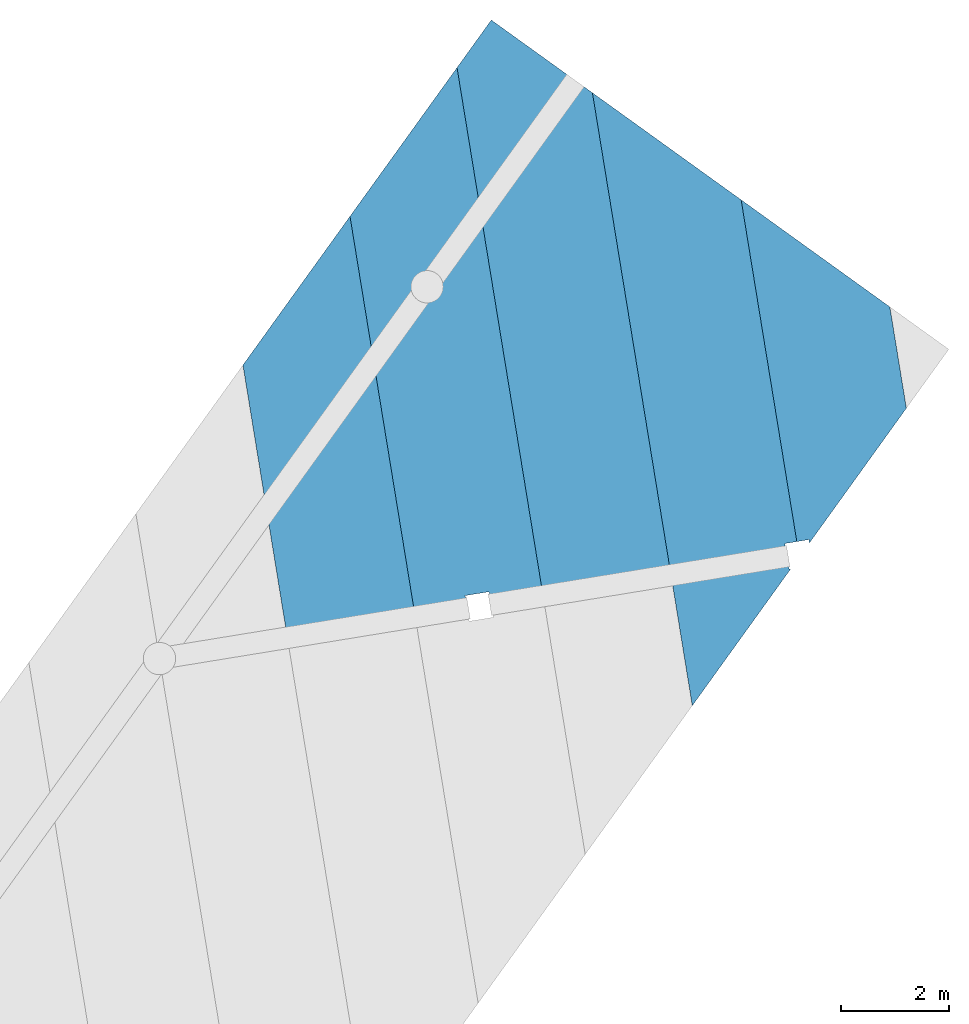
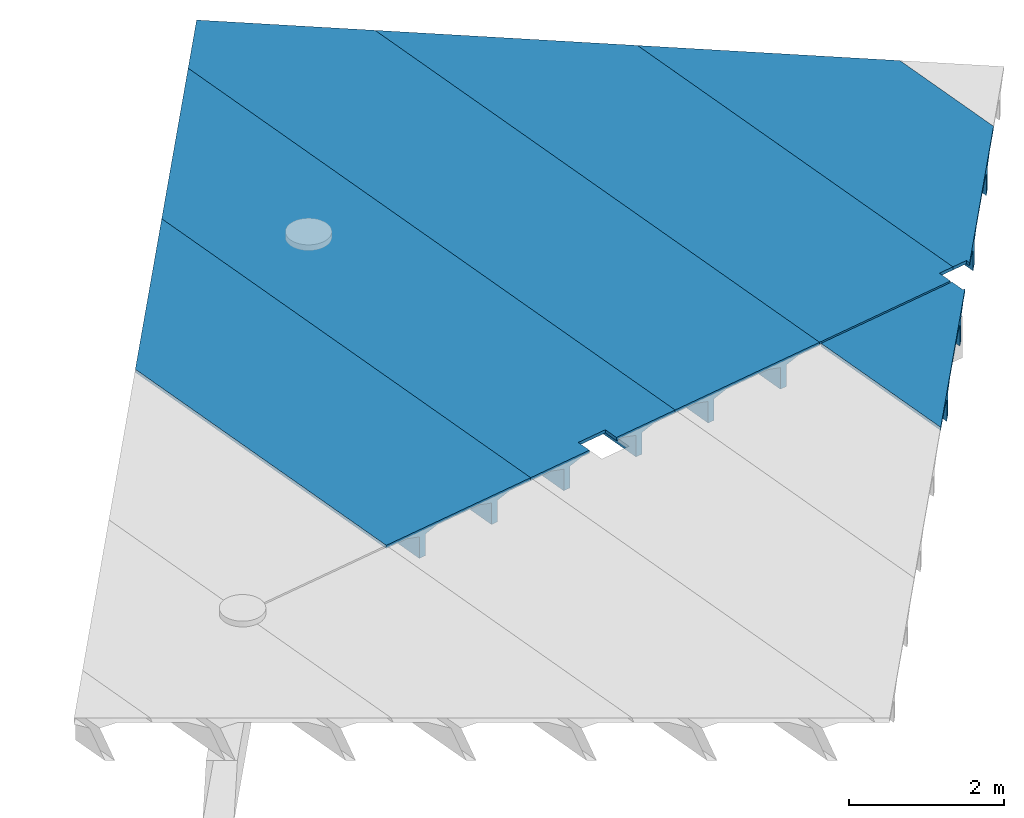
# One storey, part 3 of 3: 6 beams.
"""IFC2X3 building model written with IfcOpenShell, lengths in millimetres."""

from ifc_helpers import new_model, entity, si_unit, converted_unit, derived_unit, direction, frame, origin, origin_with_axes, place, context, subcontext, project, spatial, faceted_brep, type_object, element, save


model = new_model("IFC2X3")

# Units and contexts
model_context = context("Model", 3, precision=0.01, world=origin(), true_north=direction((6.12323399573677e-17, 1.0)))
plan_context = context("Plan", 3, precision=1e-05, world=origin_with_axes())
body_context = subcontext(model_context, "Body", "Model", "MODEL_VIEW")
ifc_project = project(units=[converted_unit("PLANEANGLEUNIT", "DEGREE", entity("IfcPositiveLengthMeasure", 0.0174532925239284), si_unit("PLANEANGLEUNIT", "RADIAN"), dimensions=[0, 0, 0, 0, 0, 0, 0]), si_unit("AREAUNIT", "SQUARE_METRE"), si_unit("LENGTHUNIT", "METRE", prefix="MILLI"), si_unit("MASSUNIT", "GRAM", prefix="KILO"), si_unit("POWERUNIT", "WATT"), si_unit("PRESSUREUNIT", "PASCAL", prefix="KILO"), si_unit("FORCEUNIT", "NEWTON", prefix="KILO"), si_unit("ELECTRICVOLTAGEUNIT", "VOLT"), si_unit("ELECTRICCURRENTUNIT", "AMPERE"), si_unit("THERMODYNAMICTEMPERATUREUNIT", "DEGREE_CELSIUS"), si_unit("TIMEUNIT", "SECOND"), si_unit("VOLUMEUNIT", "CUBIC_METRE"), derived_unit("LINEARVELOCITYUNIT", [(si_unit("LENGTHUNIT", "METRE"), 1), (si_unit("TIMEUNIT", "SECOND"), -1)]), derived_unit("VOLUMETRICFLOWRATEUNIT", [(si_unit("VOLUMEUNIT", "CUBIC_METRE"), 1), (si_unit("TIMEUNIT", "SECOND"), -1)]), derived_unit("THERMALTRANSMITTANCEUNIT", [(si_unit("POWERUNIT", "WATT"), 1), (si_unit("THERMODYNAMICTEMPERATUREUNIT", "KELVIN"), -1), (si_unit("AREAUNIT", "SQUARE_METRE"), -1)]), derived_unit("SOUNDPRESSUREUNIT", [(si_unit("PRESSUREUNIT", "PASCAL"), 1)])], contexts=[model_context, plan_context])

# Site, building, storey
site_placement = place(None, frame((5.09380697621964e-08, 5.80416781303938e-08, 0.0), z_axis=(0.0, 0.0, 1.0), x_axis=(-0.160806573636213, 0.986985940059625, 0.0)))
site = spatial("IfcSite", under=ifc_project, at=site_placement, Name="Default", CompositionType="ELEMENT")
building_placement = place(site_placement, frame((0.0, 0.0, 0.0), z_axis=(0.0, 0.0, 1.0), x_axis=(1.0, -2.77555756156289e-17, 0.0)))
building = spatial("IfcBuilding", under=site, at=building_placement, CompositionType="ELEMENT")
storey_placement = place(building_placement, frame((0.0, 0.0, 51360.0000000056), z_axis=(0.0, 0.0, 1.0), x_axis=(1.0, -2.77555756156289e-17, 0.0)))
storey = spatial("IfcBuildingStorey", under=building, at=storey_placement, Name="H01-Nivå D+0,36", CompositionType="ELEMENT", Elevation=51360.0000000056)

# Beams
beam_type = type_object("IfcBeamType", Name="DT450*2400-100-50-1200-0-200-0.3", PredefinedType="NOTDEFINED")
beam_1_placement = place(storey_placement, frame((1004653.37530632, -351980.275321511, 3529.99999999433), z_axis=(0.0, 0.0, 1.0), x_axis=(1.0, -2.77555756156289e-17, 0.0)))
element("IfcBeam", 1, at=beam_1_placement, inside=storey, type_object=beam_type, Name="DT", ObjectType="DT450*2400-100-50-1200-0-200-0.3", context=body_context, shape_type="Brep", body=[
    faceted_brep([(9039.0562173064, 0.0465330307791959, 450.0), (9039.0562173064, 0.0465330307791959, 400.0), (0.0123552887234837, 0.0, 400.0), (0.0123552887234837, 0.0, 450.0), (9389.03976443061, 350.048334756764, 400.0), (0.0105534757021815, 350.0, 400.0), (9589.04079404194, 550.049364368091, 340.0), (0.00952386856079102, 550.0, 340.0), (9589.05338590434, 550.049364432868, 0.0), (0.00952386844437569, 550.0, 0.0), (9689.04130884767, 650.049879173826, 0.0), (0.00900906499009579, 650.0, 0.0), (9689.05287110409, 650.049879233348, 340.0), (0.00900906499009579, 650.0, 340.0), (9889.04233845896, 850.050908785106, 400.0), (0.00797945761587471, 850.0, 400.0), (10589.0459420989, 1550.05451242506, 400.0), (0.00437583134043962, 1550.0, 400.0), (10670.6573184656, 1631.66588879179, 375.516713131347), (10552.2688841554, 1750.05432310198, 340.0), (0.00334622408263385, 1750.0, 340.0), (10552.2674286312, 1750.05432309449, 0.0), (0.00334622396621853, 1750.0, 0.0), (10452.2693989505, 1850.05380830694, 0.0), (0.00283142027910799, 1850.0, 0.0), (10452.2679434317, 1850.05380829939, 340.0), (0.00283142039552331, 1850.0, 340.0), (10252.2704285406, 2050.05277871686, 400.0), (0.0018018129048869, 2050.0, 400.0), (9902.27223032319, 2400.05097693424, 400.0), (0.0, 2400.0, 400.0), (9902.2707748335, 2400.05097692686, 450.0), (0.0, 2400.0, 450.0), (10670.6573184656, 1631.66588879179, 450.0), (9689.04130884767, 650.049879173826, 340.0), (9589.0407940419, 550.049364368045, 0.0), (9039.03796261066, 0.0465329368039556, 400.0), (9039.03796261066, 0.0465329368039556, 450.0), (9902.27223032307, 2400.05097693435, 450.0), (10452.2693989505, 1850.05380830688, 340.0), (10552.2688841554, 1750.05432310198, 0.0)], [[[0, 1, 2, 3]], [[1, 4, 5, 2]], [[4, 6, 7, 5]], [[6, 8, 9, 7]], [[8, 10, 11, 9]], [[10, 12, 13, 11]], [[12, 14, 15, 13]], [[14, 16, 17, 15]], [[16, 18, 19, 20, 17]], [[19, 21, 22, 20]], [[21, 23, 24, 22]], [[23, 25, 26, 24]], [[25, 27, 28, 26]], [[27, 29, 30, 28]], [[29, 31, 32, 30]], [[31, 33, 0, 3, 32]], [[2, 5, 7, 9, 11, 13, 15, 17, 20, 22, 24, 26, 28, 30, 32, 3]], [[18, 16, 14, 34, 10, 35, 6, 4, 36, 37, 33]], [[33, 38, 29, 27, 39, 23, 40, 19, 18]]], orient=[[False], [False], [False], [False], [False], [False], [False], [False], [False], [False], [False], [False], [False], [False], [False], [False], [False], [False], [False]]),
])
beam_2_placement = place(storey_placement, frame((1004653.38591223, -354380.274163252, 3529.99999999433), z_axis=(0.0, 0.0, 1.0), x_axis=(1.0, -2.77555756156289e-17, 0.0)))
element("IfcBeam", 2, at=beam_2_placement, inside=storey, type_object=beam_type, Name="DT", ObjectType="DT450*2400-100-50-1200-0-200-0.3", context=body_context, shape_type="Brep", body=[
    faceted_brep([(225.011272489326, 225.000014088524, 400.0), (0.011196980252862, 224.99885579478, 400.0), (0.011196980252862, 224.99885579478, 450.0), (225.011272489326, 225.000014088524, 450.0), (225.012430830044, 0.0, 450.0), (225.012430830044, 0.0, 400.0), (6989.01738947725, 350.034821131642, 400.0), (7189.0178327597, 550.03585073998, 340.0), (0.00952386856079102, 549.998841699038, 340.0), (0.0105534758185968, 349.998841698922, 400.0), (6639.01500132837, 0.0330193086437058, 400.0), (7189.05513515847, 550.0358509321, 0.0), (0.00952386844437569, 549.998841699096, 0.0), (7289.01834756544, 650.036365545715, 0.0), (0.00900906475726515, 649.998841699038, 0.0), (7289.05462035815, 650.036365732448, 340.0), (0.00900906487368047, 649.998841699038, 340.0), (7489.01937717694, 850.037395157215, 400.0), (0.00797945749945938, 849.998841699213, 400.0), (8189.02298081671, 1550.04099879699, 400.0), (0.00437583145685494, 1549.99884169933, 400.0), (8389.02401042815, 1750.04202840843, 340.0), (0.00334622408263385, 1749.99884169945, 340.0), (8389.04895755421, 1750.04202853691, 0.0), (0.00334622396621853, 1749.9988416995, 0.0), (8489.02452523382, 1850.04254321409, 0.0), (0.00283142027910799, 1849.9988416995, 0.0), (8489.04844275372, 1850.04254333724, 340.0), (0.00283142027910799, 1849.99884169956, 340.0), (8689.02555484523, 2050.04357282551, 400.0), (0.00180181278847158, 2049.99884169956, 400.0), (9039.0273566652, 2400.04537464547, 400.0), (0.0, 2399.99884169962, 400.0), (9039.04561135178, 2400.04537473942, 450.0), (0.0, 2399.99884169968, 450.0), (6638.98198201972, 0.0330191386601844, 450.0), (6639.01500132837, 0.0330193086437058, 450.0), (9039.02735666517, 2400.04537464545, 450.0), (8489.02452523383, 1850.04254321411, 340.0), (8389.02401042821, 1750.04202840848, 0.0), (7289.01834756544, 650.036365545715, 340.0), (7189.01783275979, 550.035850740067, 0.0), (6989.01680314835, 350.034821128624, 400.0)], [[[0, 1, 2, 3]], [[0, 3, 4, 5]], [[6, 7, 8, 9]], [[10, 6, 9, 1, 0, 5]], [[7, 11, 12, 8]], [[11, 13, 14, 12]], [[13, 15, 16, 14]], [[15, 17, 18, 16]], [[17, 19, 20, 18]], [[19, 21, 22, 20]], [[21, 23, 24, 22]], [[23, 25, 26, 24]], [[25, 27, 28, 26]], [[27, 29, 30, 28]], [[29, 31, 32, 30]], [[31, 33, 34, 32]], [[35, 10, 5, 4]], [[1, 9, 8, 12, 14, 16, 18, 20, 22, 24, 26, 28, 30, 32, 34, 2]], [[33, 35, 4, 3, 2, 34]], [[10, 36, 37, 31, 29, 38, 25, 39, 21, 19, 17, 40, 13, 41, 7, 42]]], orient=[[False], [False], [False], [False], [False], [False], [False], [False], [False], [False], [False], [False], [False], [False], [False], [False], [False], [False], [False], [False]]),
])
beam_3_placement = place(storey_placement, frame((1004653.39767645, -356780.275321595, 3529.99999999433), z_axis=(0.0, 0.0, 1.0), x_axis=(1.0, -2.77555756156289e-17, 0.0)))
element("IfcBeam", 3, at=beam_3_placement, inside=storey, type_object=beam_type, Name="DT", ObjectType="DT450*2400-100-50-1200-0-200-0.3", context=body_context, shape_type="Brep", body=[
    faceted_brep([(161.086246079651, 2175.00084344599, 450.0), (161.086246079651, 2175.00084344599, 400.0), (224.999938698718, 2175.00117247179, 400.0), (224.999938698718, 2175.00117247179, 450.0), (224.998786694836, 2400.00115830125, 400.0), (224.998786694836, 2400.00115830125, 450.0), (1986.07603598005, 350.010224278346, 400.0), (2336.07575322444, 0.0120260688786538, 400.0), (4238.99217043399, 0.0218222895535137, 400.0), (4588.99268355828, 350.023624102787, 400.0), (1786.07706557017, 550.009194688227, 340.0), (4788.99371316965, 550.024653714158, 340.0), (1786.0096322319, 550.009194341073, 0.0), (4789.04568748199, 550.024653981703, 0.0), (1686.07758036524, 650.00867989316, 0.0), (4888.99422797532, 650.025168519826, 0.0), (1686.00963223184, 650.008679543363, 340.0), (4889.04568748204, 650.025168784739, 340.0), (1486.07860995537, 850.007650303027, 400.0), (5088.99525758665, 850.026198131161, 400.0), (786.082213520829, 1550.00404673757, 400.0), (5788.99886122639, 1550.0298017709, 400.0), (586.083243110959, 1750.00301714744, 340.0), (5988.9998908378, 1750.03083138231, 340.0), (586.009632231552, 1750.00301676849, 0.0), (5989.04568748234, 1750.03083161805, 0.0), (486.083757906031, 1850.00250235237, 0.0), (6089.00040564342, 1850.03134618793, 0.0), (486.009632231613, 1850.00250197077, 340.0), (6089.04568748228, 1850.03134642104, 340.0), (286.084787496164, 2050.00147276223, 400.0), (6289.00143525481, 2050.03237579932, 400.0), (6639.00323707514, 2400.03417761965, 400.0), (2336.00963223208, 0.0120257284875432, 450.0), (4239.04568748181, 0.0218225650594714, 450.0), (6638.97021775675, 2400.03417744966, 450.0), (4238.99088173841, 0.0218222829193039, 450.0), (6639.00323707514, 2400.03417761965, 450.0), (6089.00040564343, 1850.03134618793, 340.0), (5988.99989083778, 1750.03083138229, 0.0), (4888.99422797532, 650.025168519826, 340.0), (4788.99371316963, 550.024653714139, 0.0), (4238.99088173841, 0.0218222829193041, 400.0), (2336.07423419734, 0.0120260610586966, 450.0), (2336.07423419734, 0.0120260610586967, 400.0), (1786.07706557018, 550.00919468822, 0.0), (1686.07758036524, 650.00867989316, 340.0), (586.08324311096, 1750.00301714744, 0.0), (486.083757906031, 1850.00250235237, 340.0), (161.08541681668, 2175.00084344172, 400.0), (161.08541681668, 2175.00084344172, 450.0)], [[[0, 1, 2, 3]], [[2, 4, 5, 3]], [[6, 7, 8, 9]], [[10, 6, 9, 11]], [[12, 10, 11, 13]], [[14, 12, 13, 15]], [[16, 14, 15, 17]], [[18, 16, 17, 19]], [[20, 18, 19, 21]], [[22, 20, 21, 23]], [[24, 22, 23, 25]], [[26, 24, 25, 27]], [[28, 26, 27, 29]], [[30, 28, 29, 31]], [[1, 30, 31, 32, 4, 2]], [[7, 33, 34, 8]], [[32, 35, 5, 4]], [[35, 34, 33, 0, 3, 5]], [[36, 37, 32, 31, 38, 27, 39, 23, 21, 19, 40, 15, 41, 11, 9, 42]], [[43, 44, 6, 10, 45, 14, 46, 18, 20, 22, 47, 26, 48, 30, 49, 50]]], orient=[[False], [False], [False], [False], [False], [False], [False], [False], [False], [False], [False], [False], [False], [False], [False], [False], [False], [False], [False], [False]]),
])
beam_4_placement = place(storey_placement, frame((1004653.36470041, -349580.27532147, 3529.99999999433), z_axis=(0.0, 0.0, 1.0), x_axis=(1.0, -2.77555756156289e-17, 0.0)))
element("IfcBeam", 4, at=beam_4_placement, inside=storey, type_object=beam_type, Name="DT", ObjectType="DT450*2400-100-50-1200-0-200-0.3", context=body_context, shape_type="Brep", body=[
    faceted_brep([(225.005033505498, 1425.0011724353, 400.0), (0.00501933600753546, 1425.00001414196, 400.0), (0.00501933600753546, 1425.00001414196, 450.0), (225.005033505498, 1425.0011724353, 450.0), (0.00733595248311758, 975.000014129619, 400.0), (225.007350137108, 975.001172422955, 400.0), (225.007350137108, 975.001172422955, 450.0), (0.00733595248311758, 975.000014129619, 450.0), (9902.28288621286, 0.0509769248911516, 400.0), (9552.28463797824, 350.049175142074, 400.0), (0.0105534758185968, 350.0, 400.0), (0.0123552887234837, 0.0, 400.0), (9352.28566756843, 550.048145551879, 340.0), (0.00952386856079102, 550.0, 340.0), (9352.28421209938, 550.048145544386, 0.0), (0.00952386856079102, 550.0, 0.0), (9252.28618236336, 650.04763075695, 0.0), (0.00900906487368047, 650.0, 0.0), (9252.28472689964, 650.047630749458, 340.0), (0.00900906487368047, 650.0, 340.0), (9052.28721195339, 850.046601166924, 400.0), (0.00797945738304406, 850.0, 400.0), (8352.29081551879, 1550.04299760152, 400.0), (0.00437583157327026, 1550.0, 400.0), (8152.29184510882, 1750.04196801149, 340.0), (0.00334622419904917, 1750.0, 340.0), (8152.29038970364, 1750.04196800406, 0.0), (0.00334622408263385, 1750.0, 0.0), (8052.29235990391, 1850.0414532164, 0.0), (0.00283142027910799, 1850.0, 0.0), (8052.29090450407, 1850.04145320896, 340.0), (0.00283142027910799, 1850.0, 340.0), (7852.29338949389, 2050.04042362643, 400.0), (0.0018018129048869, 2050.0, 400.0), (7502.29519127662, 2400.0386218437, 400.0), (0.0, 2400.0, 400.0), (7502.29373590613, 2400.0386218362, 450.0), (0.0, 2400.0, 450.0), (9902.28138069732, 0.0509769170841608, 450.0), (0.0123552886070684, 0.0, 450.0), (9902.28283619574, 0.050976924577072, 450.0), (7502.29519127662, 2400.0386218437, 450.0), (8052.29235990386, 1850.04145321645, 340.0), (8152.29184510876, 1750.04196801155, 0.0), (9252.28618236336, 650.04763075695, 340.0), (9352.28566756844, 550.048145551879, 0.0), (9902.28283619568, 0.050976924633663, 400.0)], [[[0, 1, 2, 3]], [[4, 5, 6, 7]], [[5, 0, 3, 6]], [[8, 9, 10, 11]], [[9, 12, 13, 10]], [[12, 14, 15, 13]], [[14, 16, 17, 15]], [[16, 18, 19, 17]], [[18, 20, 21, 19]], [[20, 22, 23, 1, 0, 5, 4, 21]], [[22, 24, 25, 23]], [[24, 26, 27, 25]], [[26, 28, 29, 27]], [[28, 30, 31, 29]], [[30, 32, 33, 31]], [[32, 34, 35, 33]], [[34, 36, 37, 35]], [[38, 8, 11, 39]], [[7, 39, 11, 10, 13, 15, 17, 19, 21, 4]], [[1, 23, 25, 27, 29, 31, 33, 35, 37, 2]], [[36, 38, 39, 7, 6, 3, 2, 37]], [[40, 41, 34, 32, 42, 28, 43, 24, 22, 20, 44, 16, 45, 12, 9, 46]]], orient=[[False], [False], [False], [False], [False], [False], [False], [False], [False], [False], [False], [False], [False], [False], [False], [False], [False], [False], [False], [False], [False], [False]]),
])
beam_5_placement = place(storey_placement, frame((1004653.3540945, -347180.275321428, 3529.99999999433), z_axis=(0.0, 0.0, 1.0), x_axis=(1.0, -2.77555756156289e-17, 0.0)))
element("IfcBeam", 5, at=beam_5_placement, inside=storey, type_object=beam_type, Name="DT", ObjectType="DT450*2400-100-50-1200-0-200-0.3", context=body_context, shape_type="Brep", body=[
    faceted_brep([(7502.3043417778, 0.0386218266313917, 450.0), (7502.3043417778, 0.0386218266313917, 400.0), (0.012355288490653, 0.0, 400.0), (0.012355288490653, 0.0, 450.0), (7152.30759894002, 350.036820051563, 400.0), (0.0105534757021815, 350.0, 400.0), (6952.30862853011, 550.035790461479, 340.0), (0.00952386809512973, 550.0, 340.0), (6952.30717317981, 550.035790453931, 0.0), (0.00952386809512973, 550.0, 0.0), (6852.30914332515, 650.035275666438, 0.0), (0.00900906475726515, 650.0, 0.0), (6852.30768798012, 650.035275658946, 340.0), (0.00900906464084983, 650.0, 340.0), (6652.31017291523, 850.034246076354, 400.0), (0.00797945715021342, 850.0, 400.0), (5952.31377648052, 1550.03064251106, 400.0), (0.00437583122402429, 1550.0, 400.0), (5752.31480607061, 1750.02961292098, 340.0), (0.00334622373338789, 1750.0, 340.0), (5752.31335078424, 1750.02961291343, 0.0), (0.00334622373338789, 1750.0, 0.0), (5652.31532086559, 1850.02909812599, 0.0), (0.00283142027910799, 1850.0, 0.0), (5652.31386558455, 1850.02909811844, 340.0), (0.00283142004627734, 1850.0, 340.0), (5452.31635045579, 2050.0280685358, 400.0), (0.00180181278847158, 2050.0, 400.0), (5102.31815223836, 2400.02626675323, 400.0), (0.0, 2400.0, 400.0), (5102.31669698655, 2400.02626674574, 450.0), (0.0, 2400.0, 450.0), (5102.31815223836, 2400.02626675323, 450.0), (5652.31532086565, 1850.02909812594, 340.0), (5752.31480607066, 1750.02961292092, 0.0), (6852.30914332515, 650.035275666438, 340.0), (6952.30862853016, 550.035790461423, 0.0), (7502.30579715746, 0.0386218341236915, 400.0), (7502.30579715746, 0.0386218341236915, 450.0)], [[[0, 1, 2, 3]], [[1, 4, 5, 2]], [[4, 6, 7, 5]], [[6, 8, 9, 7]], [[8, 10, 11, 9]], [[10, 12, 13, 11]], [[12, 14, 15, 13]], [[14, 16, 17, 15]], [[16, 18, 19, 17]], [[18, 20, 21, 19]], [[20, 22, 23, 21]], [[22, 24, 25, 23]], [[24, 26, 27, 25]], [[26, 28, 29, 27]], [[28, 30, 31, 29]], [[30, 0, 3, 31]], [[2, 5, 7, 9, 11, 13, 15, 17, 19, 21, 23, 25, 27, 29, 31, 3]], [[32, 28, 26, 33, 22, 34, 18, 16, 14, 35, 10, 36, 6, 4, 37, 38]]], orient=[[False], [False], [False], [False], [False], [False], [False], [False], [False], [False], [False], [False], [False], [False], [False], [False], [False], [False]]),
])
beam_6_placement = place(storey_placement, frame((995753.385911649, -354380.314651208, 3529.99999999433), z_axis=(0.0, 0.0, 1.0), x_axis=(1.0, -2.77555756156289e-17, 0.0)))
element("IfcBeam", 6, at=beam_6_placement, inside=storey, type_object=beam_type, Name="DT", ObjectType="DT450*2400-100-50-1200-0-200-0.3", context=body_context, shape_type="Brep", body=[
    faceted_brep([(8645.01143412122, 191.126095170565, 400.0), (8645.01143412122, 191.126095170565, 450.0), (8645.01125950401, 225.04506153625, 450.0), (8645.01125950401, 225.04506153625, 400.0), (8870.01125952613, 225.046219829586, 450.0), (8870.01025756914, 225.046219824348, 400.0), (6436.10291419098, 2400.03313308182, 400.0), (6786.1028431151, 2050.0349348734, 400.0), (8870.00086240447, 2050.04566278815, 400.0), (8869.99906059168, 2400.04566278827, 400.0), (6986.10162857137, 1850.03596446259, 340.0), (8870.00189201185, 1850.04566278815, 340.0), (6986.09169188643, 1850.03596441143, 0.0), (8870.00189201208, 1850.04566278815, 0.0), (7086.10097895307, 1750.03647925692, 0.0), (8870.00240681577, 1750.04566278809, 0.0), (7086.09169188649, 1750.03647920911, 340.0), (8870.00240681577, 1750.04566278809, 340.0), (7286.09984582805, 1550.03750884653, 400.0), (8870.00343642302, 1550.04566278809, 400.0), (7986.09660136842, 850.04111241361, 400.0), (8870.00704004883, 850.045662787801, 400.0), (8186.09529920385, 650.042142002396, 340.0), (8870.00806965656, 650.045662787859, 340.0), (8186.09169188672, 650.042141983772, 0.0), (8870.00806965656, 650.045662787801, 0.0), (8286.09473176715, 550.04265679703, 0.0), (8870.00858445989, 550.045662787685, 0.0), (8286.09169188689, 550.042656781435, 340.0), (8870.00858446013, 550.045662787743, 340.0), (8486.09366828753, 350.043686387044, 400.0), (8870.0096140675, 350.045662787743, 400.0), (6436.09169188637, 2400.03313302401, 450.0), (8869.99906059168, 2400.04566278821, 450.0), (8286.09469787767, 550.04265679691, 340.0), (8286.09469787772, 550.042656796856, 0.0), (8186.09521267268, 650.042142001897, 0.0), (8186.09521267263, 650.042142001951, 340.0), (7986.09624226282, 850.041112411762, 400.0), (7086.10087541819, 1750.03647925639, 340.0), (7086.10087541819, 1750.03647925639, 0.0), (6986.10139021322, 1850.03596446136, 0.0), (6986.10139021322, 1850.03596446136, 340.0), (6786.10241980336, 2050.03493487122, 400.0), (6436.10422158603, 2400.03313308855, 400.0), (6436.10422158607, 2400.03313308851, 450.0), (8645.01143412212, 191.125920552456, 450.0), (8645.01143412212, 191.125920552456, 400.0)], [[[0, 1, 2, 3]], [[3, 2, 4, 5]], [[6, 7, 8, 9]], [[7, 10, 11, 8]], [[10, 12, 13, 11]], [[12, 14, 15, 13]], [[14, 16, 17, 15]], [[16, 18, 19, 17]], [[18, 20, 21, 19]], [[20, 22, 23, 21]], [[22, 24, 25, 23]], [[24, 26, 27, 25]], [[26, 28, 29, 27]], [[28, 30, 31, 29]], [[30, 0, 3, 5, 31]], [[32, 6, 9, 33]], [[4, 33, 9, 8, 11, 13, 15, 17, 19, 21, 23, 25, 27, 29, 31, 5]], [[1, 32, 33, 4, 2]], [[30, 34, 35, 36, 37, 38, 18, 39, 40, 41, 42, 43, 44, 45, 46, 47]]], orient=[[False], [False], [False], [False], [False], [False], [False], [False], [False], [False], [False], [False], [False], [False], [False], [False], [False], [False], [False]]),
])

save(model, "model.ifc")
